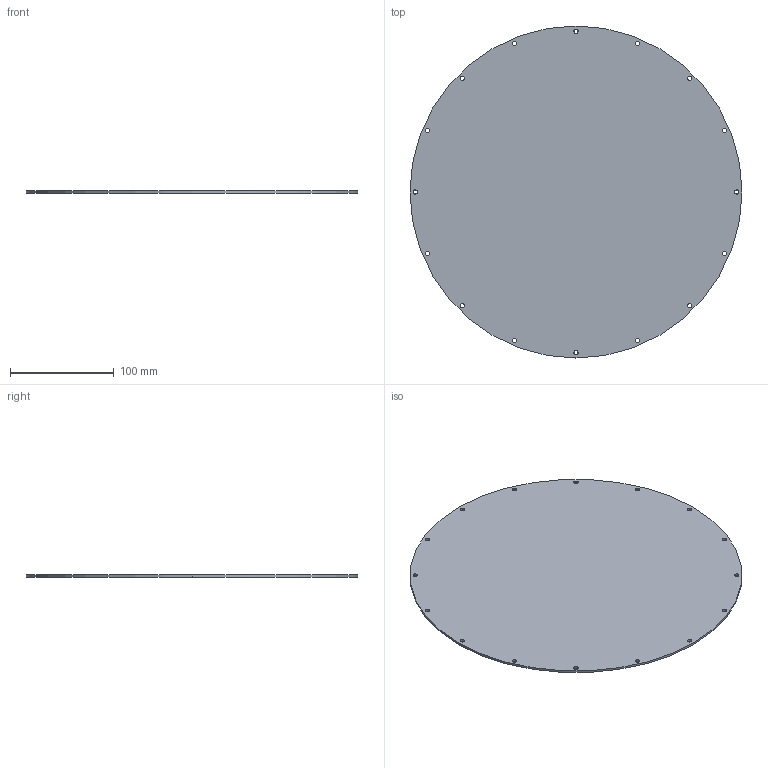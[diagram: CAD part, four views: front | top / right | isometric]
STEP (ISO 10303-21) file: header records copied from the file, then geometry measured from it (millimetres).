
FILE_DESCRIPTION (( 'STEP AP203' ), '1' );
FILE_NAME ('bottom-cover.STEP', '2024-07-01T10:11:43', ( '' ), ( '' ), 'SwSTEP 2.0', 'SolidWorks 2021', '' );
FILE_SCHEMA (( 'CONFIG_CONTROL_DESIGN' ));
Length unit declared in the file: millimetre
Products named in the file (1): bottom-cover
Bounding box: 320 x 320 x 2 mm (x, y, z)
Volume: 160427.1 mm3; surface area: 162849.9 mm2
Topology: 1 solids, 1 shells, 36 faces, 102 edges, 68 vertices
Faces by surface type: cylinder 34, plane 2
Entity records: 1355 total; most frequent: DIRECTION 244, CARTESIAN_POINT 207, ORIENTED_EDGE 204, AXIS2_PLACEMENT_3D 105, EDGE_CURVE 102, VERTEX_POINT 68, EDGE_LOOP 68, CIRCLE 68
